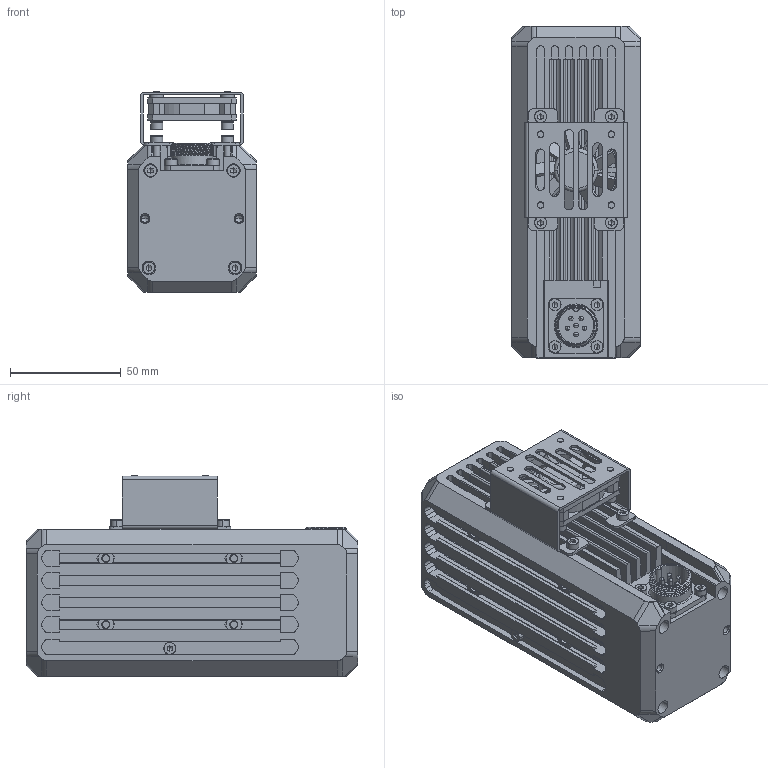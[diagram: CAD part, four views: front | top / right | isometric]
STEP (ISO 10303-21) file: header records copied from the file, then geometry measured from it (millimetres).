
FILE_DESCRIPTION((''),'2;1');
FILE_NAME('PRT0001','2022-09-02T15:21:00',('huguozhe'),(''),'CREO PARAMETRIC BY PTC INC, 2020044','CREO PARAMETRIC BY PTC INC, 2020044','');
FILE_SCHEMA(('AUTOMOTIVE_DESIGN { 1 0 10303 214 1 1 1 1 }'));
Products named in the file (1): PRT0001
Bounding box: 58 x 150 x 90.6 mm (x, y, z)
Volume: 362804 mm3; surface area: 140762.1 mm2
Topology: 1 solids, 37 shells, 2259 faces, 5830 edges, 3580 vertices
Faces by surface type: plane 1144, cylinder 659, cone 316, torus 110, bspline 30
Entity records: 80158 total; most frequent: CARTESIAN_POINT 15893, DIRECTION 11809, ORIENTED_EDGE 11404, EDGE_CURVE 5702, AXIS2_PLACEMENT_3D 4338, VERTEX_POINT 3580, VECTOR 3133, LINE 3133
